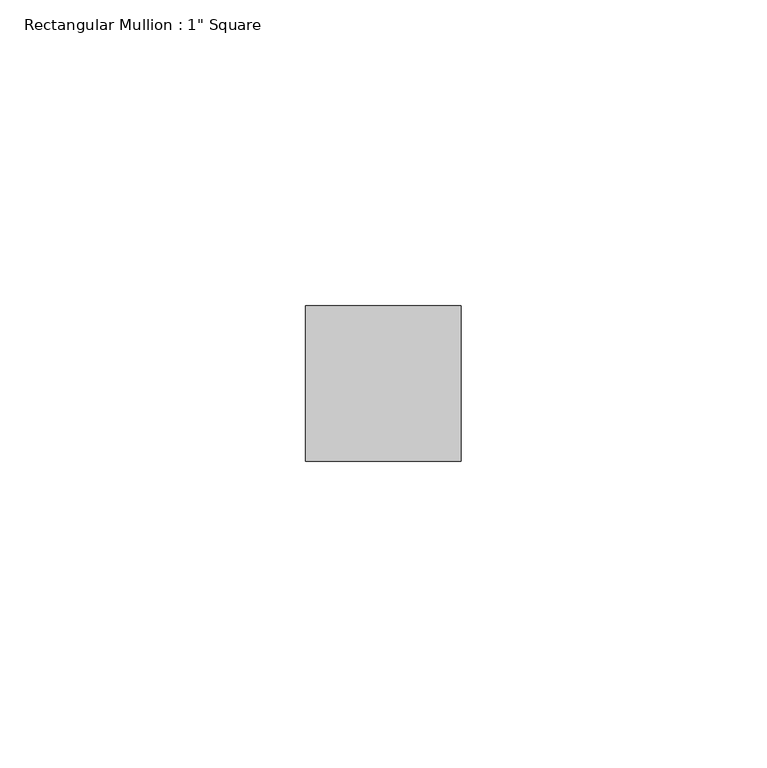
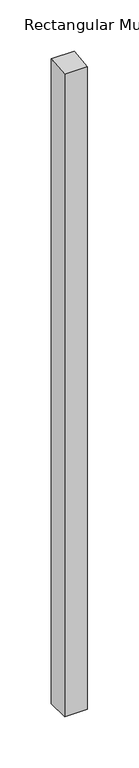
"""IFC4 building model written with IfcOpenShell, lengths in millimetres: member geometry."""

from ifc_helpers import new_model, si_unit, frame, origin, place, context, project, spatial, polyline, outline, extrude, source, transform, mapped, element, save


def member_600e1e00(model_context):
    return source(origin(), model_context, "Body", "SweptSolid", [
        extrude(outline(polyline([(-12.7, -1.2771724), (12.7, 1.2771724), (12.7, -762.8431501), (-12.7, -762.8431501), (-12.7, -1.2771724)])), frame((-12.7, 0.0, 0.0), z_axis=(1.0, 0.0, 0.0), x_axis=(0.0, 1.0, 0.0)), (0.0, 0.0, 1.0), 25.4),
    ])


if __name__ == "__main__":
    model = new_model("IFC4")
    model_context = context("Model", 3, world=origin())
    ifc_project = project(units=[si_unit("LENGTHUNIT", "METRE", prefix="MILLI")], contexts=[model_context])
    site = spatial("IfcSite", under=ifc_project)
    building = spatial("IfcBuilding", under=site)
    placement = place(None, origin())
    member_shape = member_600e1e00(model_context)
    element("IfcMember", 1, ObjectType="Rectangular Mullion : 1\" Square", at=placement, inside=building, context=model_context, shape_type="MappedRepresentation", body=[
        mapped(member_shape, transform((0.0, 0.0, 0.0), x_axis=(1.0, 0.0, 0.0), y_axis=(0.0, 1.0, 0.0), z_axis=(0.0, 0.0, 1.0))),
    ])
    save(model, "model.ifc")
